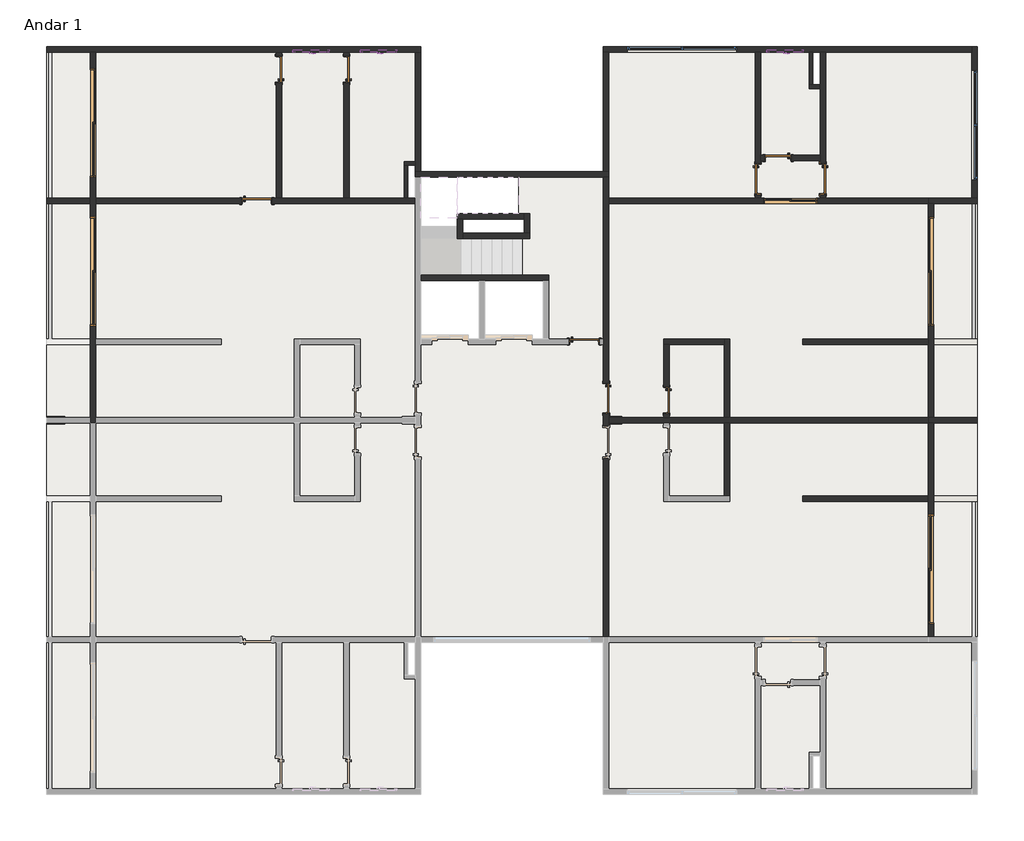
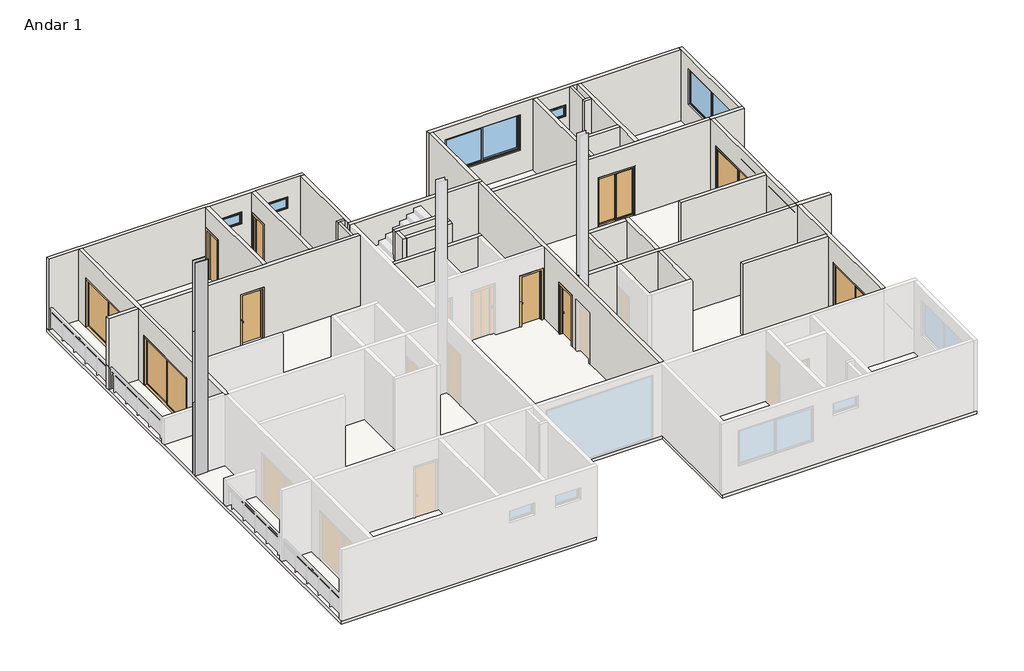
# One storey, part 2 of 3: 38 walls, 14 doors, 5 windows, 1 column, 1 slab.
"""IFC4 building model written with IfcOpenShell, lengths in millimetres."""

from ifc_helpers import new_model, si_unit, frame, origin, place, context, project, spatial, polyline, outline, extrude, faceted_brep, transform, mapped, element, save
from components import door_3_00m_x_2_10m_bc451fc0, door_3_00m_x_2_10m_5baaadc1, door_interior_single_flush_panel_wood_70m_89b55d44, door_interior_single_flush_panel_wood_70m_eb1ec4d9, door_interior_single_flush_panel_wood_80m_pcf_cb5077a7, door_interior_single_flush_panel_wood_80m_pcf_192ded05, p2_1_50m_x_2_10m_2a77f288, window_d9182d47, j1_3_00m_x_1_50m_afc201fb

model = new_model("IFC4")

# Units and contexts
model_context = context("Model", 3, world=origin())
ifc_project = project(units=[si_unit("LENGTHUNIT", "METRE", prefix="MILLI")], contexts=[model_context])

# Site, building, storey
site = spatial("IfcSite", under=ifc_project)
building = spatial("IfcBuilding", under=site)
storey = spatial("IfcBuildingStorey", under=building, Name="Andar 1", Elevation=3150.0)

# Column
placement = place(None, origin())
element("IfcColumn", 1, ObjectType="M_Coluna retangular : 50cm x 20cm", at=placement, inside=storey, context=model_context, shape_type="SweptSolid", body=[
    extrude(outline(polyline([(12600.0, 12150.0), (12600.0, 3150.0), (12575.0, 3150.0), (12575.0, 6150.0), (12575.0, 9150.0), (12575.0, 12150.0), (12600.0, 12150.0)])), frame((6000.0, 0.0, 0.0), z_axis=(1.0, 0.0, 0.0), x_axis=(0.0, 1.0, 0.0)), (0.0, 0.0, 1.0), 500.0),
    extrude(outline(polyline([(12400.0, 3150.0), (12400.0, 12150.0), (12425.0, 12150.0), (12425.0, 9150.0), (12425.0, 6150.0), (12425.0, 3150.0), (12400.0, 3150.0)])), frame((6000.0, 0.0, 0.0), z_axis=(1.0, 0.0, 0.0), x_axis=(0.0, 1.0, 0.0)), (0.0, 0.0, 1.0), 500.0),
])

# Doors
door_3_00m_x_2_10m_shape = door_3_00m_x_2_10m_bc451fc0(model_context)
element("IfcDoor", 2, ObjectType="Porta de Correr - 2 Folhas - ComPainel 1 : 3.00m x 2.10m", at=placement, inside=storey, context=model_context, shape_type="MappedRepresentation", body=[
    mapped(door_3_00m_x_2_10m_shape, transform((7275.0, 16604.2060771, 3150.0), x_axis=(0.0, -1.0, 0.0), y_axis=(1.0, 0.0, 0.0), z_axis=(0.0, 0.0, 1.0))),
])
element("IfcDoor", 3, ObjectType="Porta de Correr - 2 Folhas - ComPainel 1 : 3.00m x 2.10m", at=placement, inside=storey, context=model_context, shape_type="MappedRepresentation", body=[
    mapped(door_3_00m_x_2_10m_shape, transform((7275.0, 20664.2060771, 3150.0), x_axis=(0.0, -1.0, 0.0), y_axis=(1.0, 0.0, 0.0), z_axis=(0.0, 0.0, 1.0))),
])
element("IfcDoor", 4, ObjectType="Porta de Correr - 2 Folhas - ComPainel 1 : 3.00m x 2.10m", at=placement, inside=storey, context=model_context, shape_type="MappedRepresentation", body=[
    mapped(door_3_00m_x_2_10m_shape, transform((30175.0, 8395.7939229, 3150.0), x_axis=(0.0, 1.0, 0.0), y_axis=(-1.0, 0.0, 0.0), z_axis=(0.0, 0.0, 1.0))),
])
door_3_00m_x_2_10m_2_shape = door_3_00m_x_2_10m_5baaadc1(model_context)
element("IfcDoor", 5, ObjectType="Porta de Correr - 2 Folhas - ComPainel 1 : 3.00m x 2.10m", at=placement, inside=storey, context=model_context, shape_type="MappedRepresentation", body=[
    mapped(door_3_00m_x_2_10m_2_shape, transform((30175.0, 16604.2060771, 3150.0), x_axis=(0.0, -1.0, 0.0), y_axis=(1.0, 0.0, 0.0), z_axis=(0.0, 0.0, 1.0))),
])
door_interior_single_flush_panel_wood_70m_shape = door_interior_single_flush_panel_wood_70m_89b55d44(model_context)
element("IfcDoor", 6, ObjectType="Door-Interior-Single-Flush_Panel-Wood : .70m", at=placement, inside=storey, context=model_context, shape_type="MappedRepresentation", body=[
    mapped(door_interior_single_flush_panel_wood_70m_shape, transform((22953.175, 13050.4, 3150.0), x_axis=(0.0, -1.0, 0.0), y_axis=(1.0, 0.0, 0.0), z_axis=(0.0, 0.0, 1.0))),
])
door_interior_single_flush_panel_wood_70m_2_shape = door_interior_single_flush_panel_wood_70m_eb1ec4d9(model_context)
element("IfcDoor", 7, ObjectType="Door-Interior-Single-Flush_Panel-Wood : .70m", at=placement, inside=storey, context=model_context, shape_type="MappedRepresentation", body=[
    mapped(door_interior_single_flush_panel_wood_70m_2_shape, transform((14203.175, 22099.6, 3150.0), x_axis=(0.0, 1.0, 0.0), y_axis=(-1.0, 0.0, 0.0), z_axis=(0.0, 0.0, 1.0))),
])
element("IfcDoor", 8, ObjectType="Door-Interior-Single-Flush_Panel-Wood : .70m", at=placement, inside=storey, context=model_context, shape_type="MappedRepresentation", body=[
    mapped(door_interior_single_flush_panel_wood_70m_2_shape, transform((26000.4, 19678.575, 3150.0), x_axis=(-1.0, 0.0, 0.0), y_axis=(0.0, -1.0, 0.0), z_axis=(0.0, 0.0, 1.0))),
])
element("IfcDoor", 9, ObjectType="Door-Interior-Single-Flush_Panel-Wood : .70m", at=placement, inside=storey, context=model_context, shape_type="MappedRepresentation", body=[
    mapped(door_interior_single_flush_panel_wood_70m_2_shape, transform((12353.175, 22099.6, 3150.0), x_axis=(0.0, 1.0, 0.0), y_axis=(-1.0, 0.0, 0.0), z_axis=(0.0, 0.0, 1.0))),
])
door_interior_single_flush_panel_wood_80m_pcf_shape = door_interior_single_flush_panel_wood_80m_pcf_cb5077a7(model_context)
element("IfcDoor", 10, ObjectType="Door-Interior-Single-Flush_Panel-Wood : .80m", at=placement, inside=storey, context=model_context, shape_type="MappedRepresentation", body=[
    mapped(door_interior_single_flush_panel_wood_80m_pcf_shape, transform((25446.825, 19100.4, 3150.0), x_axis=(0.0, -1.0, 0.0), y_axis=(1.0, 0.0, 0.0), z_axis=(0.0, 0.0, 1.0))),
])
door_interior_single_flush_panel_wood_80m_pcf_2_shape = door_interior_single_flush_panel_wood_80m_pcf_192ded05(model_context)
element("IfcDoor", 11, ObjectType="Door-Interior-Single-Flush_Panel-Wood : .80m", at=placement, inside=storey, context=model_context, shape_type="MappedRepresentation", body=[
    mapped(door_interior_single_flush_panel_wood_80m_pcf_2_shape, transform((11749.6, 18503.175, 3150.0), x_axis=(1.0, 0.0, 0.0), y_axis=(0.0, 1.0, 0.0), z_axis=(0.0, 0.0, 1.0))),
])
element("IfcDoor", 12, ObjectType="Door-Interior-Single-Flush_Panel-Wood : .80m", at=placement, inside=storey, context=model_context, shape_type="MappedRepresentation", body=[
    mapped(door_interior_single_flush_panel_wood_80m_pcf_2_shape, transform((27228.175, 19100.4, 3150.0), x_axis=(0.0, -1.0, 0.0), y_axis=(1.0, 0.0, 0.0), z_axis=(0.0, 0.0, 1.0))),
])
element("IfcDoor", 13, ObjectType="Door-Interior-Single-Flush_Panel-Wood : .80m - PCF", at=placement, inside=storey, context=model_context, shape_type="MappedRepresentation", body=[
    mapped(door_interior_single_flush_panel_wood_80m_pcf_2_shape, transform((21303.175, 13100.4, 3150.0), x_axis=(0.0, -1.0, 0.0), y_axis=(1.0, 0.0, 0.0), z_axis=(0.0, 0.0, 1.0))),
])
element("IfcDoor", 14, ObjectType="Door-Interior-Single-Flush_Panel-Wood : .80m - PCF", at=placement, inside=storey, context=model_context, shape_type="MappedRepresentation", body=[
    mapped(door_interior_single_flush_panel_wood_80m_pcf_2_shape, transform((20699.6, 14653.175, 3150.0), x_axis=(1.0, 0.0, 0.0), y_axis=(0.0, 1.0, 0.0), z_axis=(0.0, 0.0, 1.0))),
])
p2_1_50m_x_2_10m_shape = p2_1_50m_x_2_10m_2a77f288(model_context)
element("IfcDoor", 15, ObjectType="Porta de Correr - 2 Folhas - ComPainel 1 : P2 - 1.50m x 2.10m", at=placement, inside=storey, context=model_context, shape_type="MappedRepresentation", body=[
    mapped(p2_1_50m_x_2_10m_shape, transform((26308.2939229, 18500.0, 3150.0), x_axis=(1.0, 0.0, 0.0), y_axis=(0.0, 1.0, 0.0), z_axis=(0.0, 0.0, 1.0))),
])

# Slab
element("IfcSlab", 16, ObjectType="_Laje 15cm", at=placement, inside=storey, context=model_context, shape_type="SweptSolid", body=[
    extrude(outline(polyline([(16205.0, 22705.0), (16205.0, 14725.0), (19725.0, 14725.0), (19725.0, 16475.0), (19010.0, 16475.0), (19010.0, 17474.2019304), (19205.0, 17473.8019304), (19205.0, 18149.6), (18905.0, 18149.6), (18905.0, 19279.2009656), (21245.0, 19279.2009656), (21245.0, 22705.0), (31430.0, 22705.0), (31430.0, 18425.0), (31450.0, 18425.0), (31450.0, 6575.0), (31430.0, 6575.0), (31430.0, 2295.0), (21245.0, 2295.0), (21245.0, 6445.0), (16205.0, 6445.0), (16205.0, 2295.0), (6000.0, 2295.0), (6000.0, 22705.0), (16205.0, 22705.0)]), holes=[polyline([(16075.0, 6425.0), (15775.0, 6425.0), (15775.0, 5425.0), (16075.0, 5425.0), (16075.0, 6425.0)]), polyline([(27300.0, 3425.0), (26850.0, 3425.0), (26850.0, 2425.0), (27300.0, 2425.0), (27300.0, 3425.0)]), polyline([(27300.0, 22575.0), (26850.0, 22575.0), (26850.0, 21575.0), (27300.0, 21575.0), (27300.0, 22575.0)]), polyline([(16075.0, 19575.0), (15775.0, 19575.0), (15775.0, 18575.0), (16075.0, 18575.0), (16075.0, 19575.0)])]), frame((0.0, 0.0, 3000.0), z_axis=(0.0, 0.0, 1.0), x_axis=(1.0, 0.0, 0.0)), (0.0, 0.0, 1.0), 150.0),
])

# Walls
element("IfcWall", 17, ObjectType="M_Parede Normal - 10cm - Interna", at=placement, inside=storey, context=model_context, shape_type="Brep", body=[
    faceted_brep([(27150.0, 21675.0, 3150.0), (26950.0, 21675.0, 3150.0), (26850.0, 21675.0, 3150.0), (26850.0, 21675.0, 6150.0), (26950.0, 21675.0, 6150.0), (27150.0, 21675.0, 6150.0), (27150.0, 21575.0, 3150.0), (27150.0, 21575.0, 6150.0), (26850.0, 21575.0, 6150.0), (26850.0, 21575.0, 3150.0)], [[[0, 1, 2, 3, 4, 5]], [[6, 7, 8, 9]], [[2, 1, 0, 6, 9]], [[5, 4, 3, 8, 7]], [[0, 5, 7, 6]], [[3, 2, 9, 8]]]),
])
element("IfcWall", 18, ObjectType="M_Parede Normal - 10cm - Interna", at=placement, inside=storey, context=model_context, shape_type="SweptSolid", body=[
    extrude(outline(polyline([(26950.0, 22575.0), (26950.0, 21675.0), (26850.0, 21675.0), (26850.0, 22575.0), (26950.0, 22575.0)])), frame((0.0, 0.0, 3150.0), z_axis=(0.0, 0.0, 1.0), x_axis=(1.0, 0.0, 0.0)), (0.0, 0.0, 1.0), 3000.0),
])
element("IfcWall", 19, ObjectType="M_Parede Normal - 10cm - Interna", at=placement, inside=storey, context=model_context, shape_type="Brep", body=[
    faceted_brep([(16075.0, 19575.0, 3150.0), (15775.0, 19575.0, 3150.0), (15775.0, 19575.0, 6150.0), (16075.0, 19575.0, 6150.0), (16075.0, 19475.0, 3150.0), (16075.0, 19475.0, 6150.0), (15875.0, 19475.0, 6150.0), (15775.0, 19475.0, 6150.0), (15775.0, 19475.0, 3150.0), (15875.0, 19475.0, 3150.0)], [[[0, 1, 2, 3]], [[4, 5, 6, 7, 8, 9]], [[1, 0, 4, 9, 8]], [[3, 2, 7, 6, 5]], [[0, 3, 5, 4]], [[2, 1, 8, 7]]]),
])
element("IfcWall", 20, ObjectType="M_Parede Normal - 10cm - Interna", at=placement, inside=storey, context=model_context, shape_type="SweptSolid", body=[
    extrude(outline(polyline([(15775.0, 18575.0), (15775.0, 19475.0), (15875.0, 19475.0), (15875.0, 18575.0), (15775.0, 18575.0)])), frame((0.0, 0.0, 3150.0), z_axis=(0.0, 0.0, 1.0), x_axis=(1.0, 0.0, 0.0)), (0.0, 0.0, 1.0), 3000.0),
])
element("IfcWall", 21, ObjectType="M_Parede Normal - 15cm - Externa", at=placement, inside=storey, context=model_context, shape_type="Brep", body=[
    faceted_brep([(16075.0, 22575.0, 3150.0), (16075.0, 19575.0, 3150.0), (16075.0, 19475.0, 3150.0), (16075.0, 19299.2009656, 3150.0), (16075.0, 19299.2009656, 6150.0), (16075.0, 19475.0, 6150.0), (16075.0, 19575.0, 6150.0), (16075.0, 22575.0, 6150.0), (16225.0, 22575.0, 3150.0), (16225.0, 22575.0, 6150.0), (16225.0, 19299.2009656, 6150.0), (16225.0, 19299.2009656, 3150.0)], [[[0, 1, 2, 3, 4, 5, 6, 7]], [[8, 9, 10, 11]], [[3, 2, 1, 0, 8, 11]], [[7, 6, 5, 4, 10, 9]], [[0, 7, 9, 8]], [[4, 3, 11, 10]]]),
])
element("IfcWall", 22, ObjectType="M_Parede Normal - 15cm - Externa", at=placement, inside=storey, context=model_context, shape_type="Brep", body=[
    faceted_brep([(6000.0, 22575.0, 3150.0), (6150.0, 22575.0, 3150.0), (7200.0, 22575.0, 3150.0), (7350.0, 22575.0, 3150.0), (12275.0, 22575.0, 3150.0), (12425.0, 22575.0, 3150.0), (14125.0, 22575.0, 3150.0), (14275.0, 22575.0, 3150.0), (16075.0, 22575.0, 3150.0), (16225.0, 22575.0, 3150.0), (16225.0, 22575.0, 6150.0), (16075.0, 22575.0, 6150.0), (14275.0, 22575.0, 6150.0), (14125.0, 22575.0, 6150.0), (12425.0, 22575.0, 6150.0), (12275.0, 22575.0, 6150.0), (7350.0, 22575.0, 6150.0), (7200.0, 22575.0, 6150.0), (6000.0, 22575.0, 6150.0), (15575.0, 22575.0, 5450.0), (15575.0, 22575.0, 4950.0), (14575.0, 22575.0, 4950.0), (14575.0, 22575.0, 5450.0), (13725.0, 22575.0, 5450.0), (13725.0, 22575.0, 4950.0), (12725.0, 22575.0, 4950.0), (12725.0, 22575.0, 5450.0), (16225.0, 22725.0, 3150.0), (6000.0, 22725.0, 3150.0), (6000.0, 22725.0, 6150.0), (16225.0, 22725.0, 6150.0), (15575.0, 22725.0, 4950.0), (15575.0, 22725.0, 5450.0), (14575.0, 22725.0, 5450.0), (14575.0, 22725.0, 4950.0), (13725.0, 22725.0, 4950.0), (13725.0, 22725.0, 5450.0), (12725.0, 22725.0, 5450.0), (12725.0, 22725.0, 4950.0)], [[[0, 1, 2, 3, 4, 5, 6, 7, 8, 9, 10, 11, 12, 13, 14, 15, 16, 17, 18], [19, 20, 21, 22], [23, 24, 25, 26]], [[27, 28, 29, 30], [31, 32, 33, 34], [35, 36, 37, 38]], [[9, 8, 7, 6, 5, 4, 3, 2, 1, 0, 28, 27]], [[18, 17, 16, 15, 14, 13, 12, 11, 10, 30, 29]], [[0, 18, 29, 28]], [[31, 20, 19, 32]], [[33, 22, 21, 34]], [[20, 31, 34, 21]], [[22, 33, 32, 19]], [[36, 35, 24, 23]], [[37, 36, 23, 26]], [[38, 37, 26, 25]], [[35, 38, 25, 24]], [[10, 9, 27, 30]]]),
])
element("IfcWall", 23, ObjectType="M_Parede Normal - 15cm - Externa", at=placement, inside=storey, context=model_context, shape_type="Brep", body=[
    faceted_brep([(31450.0, 12575.0, 3150.0), (31300.0, 12575.0, 3150.0), (30950.0, 12575.0, 3150.0), (30250.0, 12575.0, 3150.0), (30100.0, 12575.0, 3150.0), (30100.0, 12575.0, 6150.0), (30250.0, 12575.0, 6150.0), (31450.0, 12575.0, 6150.0), (31450.0, 12425.0, 3150.0), (31450.0, 12425.0, 6150.0), (30250.0, 12425.0, 6150.0), (30100.0, 12425.0, 6150.0), (30100.0, 12425.0, 3150.0), (30250.0, 12425.0, 3150.0), (30950.0, 12425.0, 3150.0), (31300.0, 12425.0, 3150.0)], [[[0, 1, 2, 3, 4, 5, 6, 7]], [[8, 9, 10, 11, 12, 13, 14, 15]], [[4, 3, 2, 1, 0, 8, 15, 14, 13, 12]], [[7, 6, 5, 11, 10, 9]], [[0, 7, 9, 8]], [[5, 4, 12, 11]]]),
])
element("IfcWall", 24, ObjectType="M_Parede Normal - 15cm - Externa", at=placement, inside=storey, context=model_context, shape_type="Brep", body=[
    faceted_brep([(7350.0, 22575.0, 6150.0), (7350.0, 18575.0, 6150.0), (7350.0, 18425.0, 6150.0), (7350.0, 12575.0, 6150.0), (7350.0, 12425.0, 6150.0), (7350.0, 12425.0, 3150.0), (7350.0, 12575.0, 3150.0), (7350.0, 15075.0, 3150.0), (7350.0, 15075.0, 5250.0), (7350.0, 18075.0, 5250.0), (7350.0, 18075.0, 3150.0), (7350.0, 18425.0, 3150.0), (7350.0, 18575.0, 3150.0), (7350.0, 19135.0, 3150.0), (7350.0, 19135.0, 5250.0), (7350.0, 22135.0, 5250.0), (7350.0, 22135.0, 3150.0), (7350.0, 22575.0, 3150.0), (7200.0, 12425.0, 6150.0), (7200.0, 12575.0, 6150.0), (7200.0, 18425.0, 6150.0), (7200.0, 18575.0, 6150.0), (7200.0, 22575.0, 6150.0), (7200.0, 22575.0, 3150.0), (7200.0, 22135.0, 3150.0), (7200.0, 22135.0, 5250.0), (7200.0, 19135.0, 5250.0), (7200.0, 19135.0, 3150.0), (7200.0, 18575.0, 3150.0), (7200.0, 18425.0, 3150.0), (7200.0, 18075.0, 3150.0), (7200.0, 18075.0, 5250.0), (7200.0, 15075.0, 5250.0), (7200.0, 15075.0, 3150.0), (7200.0, 12575.0, 3150.0), (7200.0, 12425.0, 3150.0)], [[[0, 1, 2, 3, 4, 5, 6, 7, 8, 9, 10, 11, 12, 13, 14, 15, 16, 17]], [[18, 19, 20, 21, 22, 23, 24, 25, 26, 27, 28, 29, 30, 31, 32, 33, 34, 35]], [[23, 17, 16, 24]], [[10, 30, 29, 28, 27, 13, 12, 11]], [[7, 6, 5, 35, 34, 33]], [[4, 3, 2, 1, 0, 22, 21, 20, 19, 18]], [[0, 17, 23, 22]], [[32, 8, 7, 33]], [[8, 32, 31, 9]], [[9, 31, 30, 10]], [[26, 14, 13, 27]], [[14, 26, 25, 15]], [[15, 25, 24, 16]], [[5, 4, 18, 35]]]),
])
element("IfcWall", 25, ObjectType="M_Parede Normal - 15cm - Externa", at=placement, inside=storey, context=model_context, shape_type="SweptSolid", body=[
    extrude(outline(polyline([(21225.0, 19299.2009656), (21225.0, 22575.0), (21375.0, 22575.0), (21375.0, 19299.2009656), (21225.0, 19299.2009656)])), frame((0.0, 0.0, 3150.0), z_axis=(0.0, 0.0, 1.0), x_axis=(1.0, 0.0, 0.0)), (0.0, 0.0, 1.0), 3000.0),
])
element("IfcWall", 26, ObjectType="M_Parede Normal - 15cm - Externa", at=placement, inside=storey, context=model_context, shape_type="Brep", body=[
    faceted_brep([(30250.0, 18425.0, 6150.0), (30250.0, 12575.0, 6150.0), (30250.0, 12575.0, 3150.0), (30250.0, 15075.0, 3150.0), (30250.0, 15075.0, 5250.0), (30250.0, 18075.0, 5250.0), (30250.0, 18075.0, 3150.0), (30250.0, 18425.0, 3150.0), (30100.0, 12575.0, 6150.0), (30100.0, 14575.0, 6150.0), (30100.0, 14725.0, 6150.0), (30100.0, 18425.0, 6150.0), (30100.0, 18425.0, 3150.0), (30100.0, 18075.0, 3150.0), (30100.0, 18075.0, 5250.0), (30100.0, 15075.0, 5250.0), (30100.0, 15075.0, 3150.0), (30100.0, 14725.0, 3150.0), (30100.0, 14575.0, 3150.0), (30100.0, 12575.0, 3150.0)], [[[0, 1, 2, 3, 4, 5, 6, 7]], [[8, 9, 10, 11, 12, 13, 14, 15, 16, 17, 18, 19]], [[12, 7, 6, 13]], [[2, 19, 18, 17, 16, 3]], [[1, 0, 11, 10, 9, 8]], [[0, 7, 12, 11]], [[15, 4, 3, 16]], [[4, 15, 14, 5]], [[5, 14, 13, 6]], [[2, 1, 8, 19]]]),
])
element("IfcWall", 27, ObjectType="M_Parede Normal - 15cm - Externa", at=placement, inside=storey, context=model_context, shape_type="SweptSolid", body=[
    extrude(outline(polyline([(30250.0, 14725.0), (31450.0, 14725.0), (31450.0, 14575.0), (30250.0, 14575.0), (30250.0, 14725.0)])), frame((0.0, 0.0, 3150.0), z_axis=(0.0, 0.0, 1.0), x_axis=(1.0, 0.0, 0.0)), (0.0, 0.0, 1.0), 1100.0),
])
element("IfcWall", 28, ObjectType="M_Parede Normal - 15cm - Externa", at=placement, inside=storey, context=model_context, shape_type="Brep", body=[
    faceted_brep([(31450.0, 18575.0, 3150.0), (31450.0, 22725.0, 3150.0), (31450.0, 22725.0, 6150.0), (31450.0, 18575.0, 6150.0), (31450.0, 19075.0, 4150.0), (31450.0, 19075.0, 5650.0), (31450.0, 22075.0, 5650.0), (31450.0, 22075.0, 4150.0), (31300.0, 18575.0, 3150.0), (31300.0, 18575.0, 6150.0), (31300.0, 22575.0, 6150.0), (31300.0, 22725.0, 6150.0), (31300.0, 22725.0, 3150.0), (31300.0, 22575.0, 3150.0), (31300.0, 19075.0, 4150.0), (31300.0, 22075.0, 4150.0), (31300.0, 22075.0, 5650.0), (31300.0, 19075.0, 5650.0)], [[[0, 1, 2, 3], [4, 5, 6, 7]], [[8, 9, 10, 11, 12, 13], [14, 15, 16, 17]], [[1, 0, 8, 13, 12]], [[3, 2, 11, 10, 9]], [[0, 3, 9, 8]], [[2, 1, 12, 11]], [[5, 4, 14, 17]], [[6, 5, 17, 16]], [[7, 6, 16, 15]], [[4, 7, 15, 14]]]),
])
element("IfcWall", 29, ObjectType="M_Parede Normal - 15cm - Externa", at=placement, inside=storey, context=model_context, shape_type="SweptSolid", body=[
    extrude(outline(polyline([(6000.0, 18575.0), (7200.0, 18575.0), (7200.0, 18425.0), (6000.0, 18425.0), (6000.0, 18575.0)])), frame((0.0, 0.0, 3150.0), z_axis=(0.0, 0.0, 1.0), x_axis=(1.0, 0.0, 0.0)), (0.0, 0.0, 1.0), 3000.0),
])
element("IfcWall", 30, ObjectType="M_Parede Normal - 15cm - Externa", at=placement, inside=storey, context=model_context, shape_type="Brep", body=[
    faceted_brep([(30100.0, 18425.0, 3150.0), (30250.0, 18425.0, 3150.0), (31450.0, 18425.0, 3150.0), (31450.0, 18425.0, 6150.0), (30250.0, 18425.0, 6150.0), (30100.0, 18425.0, 6150.0), (30100.0, 18575.0, 3150.0), (30100.0, 18575.0, 6150.0), (31300.0, 18575.0, 6150.0), (31450.0, 18575.0, 6150.0), (31450.0, 18575.0, 3150.0), (31300.0, 18575.0, 3150.0)], [[[0, 1, 2, 3, 4, 5]], [[6, 7, 8, 9, 10, 11]], [[2, 1, 0, 6, 11, 10]], [[5, 4, 3, 9, 8, 7]], [[3, 2, 10, 9]], [[0, 5, 7, 6]]]),
])
element("IfcWall", 31, ObjectType="M_Parede Normal - 15cm - Externa", at=placement, inside=storey, context=model_context, shape_type="Brep", body=[
    faceted_brep([(30100.0, 6575.0, 6150.0), (30100.0, 10275.0, 6150.0), (30100.0, 10425.0, 6150.0), (30100.0, 12425.0, 6150.0), (30100.0, 12425.0, 3150.0), (30100.0, 10425.0, 3150.0), (30100.0, 10275.0, 3150.0), (30100.0, 9925.0, 3150.0), (30100.0, 9925.0, 5250.0), (30100.0, 6925.0, 5250.0), (30100.0, 6925.0, 3150.0), (30100.0, 6575.0, 3150.0), (30250.0, 12425.0, 6150.0), (30250.0, 6575.0, 6150.0), (30250.0, 6575.0, 3150.0), (30250.0, 6925.0, 3150.0), (30250.0, 6925.0, 5250.0), (30250.0, 9925.0, 5250.0), (30250.0, 9925.0, 3150.0), (30250.0, 12425.0, 3150.0)], [[[0, 1, 2, 3, 4, 5, 6, 7, 8, 9, 10, 11]], [[12, 13, 14, 15, 16, 17, 18, 19]], [[14, 11, 10, 15]], [[4, 19, 18, 7, 6, 5]], [[3, 2, 1, 0, 13, 12]], [[0, 11, 14, 13]], [[4, 3, 12, 19]], [[17, 8, 7, 18]], [[8, 17, 16, 9]], [[9, 16, 15, 10]]]),
])
element("IfcWall", 32, ObjectType="M_Parede Normal - 15cm - Externa", at=placement, inside=storey, context=model_context, shape_type="SweptSolid", body=[
    extrude(outline(polyline([(30250.0, 10425.0), (31450.0, 10425.0), (31450.0, 10275.0), (30250.0, 10275.0), (30250.0, 10425.0)])), frame((0.0, 0.0, 3150.0), z_axis=(0.0, 0.0, 1.0), x_axis=(1.0, 0.0, 0.0)), (0.0, 0.0, 1.0), 1100.0),
])
element("IfcWall", 33, ObjectType="M_Parede Normal - 15cm - Externa", at=placement, inside=storey, context=model_context, shape_type="Brep", body=[
    faceted_brep([(21225.0, 22575.0, 3150.0), (21375.0, 22575.0, 3150.0), (25375.0, 22575.0, 3150.0), (25525.0, 22575.0, 3150.0), (26850.0, 22575.0, 3150.0), (26950.0, 22575.0, 3150.0), (27150.0, 22575.0, 3150.0), (27300.0, 22575.0, 3150.0), (31300.0, 22575.0, 3150.0), (31300.0, 22575.0, 6150.0), (27300.0, 22575.0, 6150.0), (27150.0, 22575.0, 6150.0), (26950.0, 22575.0, 6150.0), (26850.0, 22575.0, 6150.0), (25525.0, 22575.0, 6150.0), (25375.0, 22575.0, 6150.0), (21375.0, 22575.0, 6150.0), (21225.0, 22575.0, 6150.0), (24875.0, 22575.0, 4150.0), (21875.0, 22575.0, 4150.0), (21875.0, 22575.0, 5650.0), (24875.0, 22575.0, 5650.0), (26687.5, 22575.0, 4950.0), (25687.5, 22575.0, 4950.0), (25687.5, 22575.0, 5450.0), (26687.5, 22575.0, 5450.0), (21225.0, 22725.0, 3150.0), (21225.0, 22725.0, 6150.0), (31300.0, 22725.0, 6150.0), (31300.0, 22725.0, 3150.0), (24875.0, 22725.0, 4150.0), (24875.0, 22725.0, 5650.0), (21875.0, 22725.0, 5650.0), (21875.0, 22725.0, 4150.0), (26687.5, 22725.0, 4950.0), (26687.5, 22725.0, 5450.0), (25687.5, 22725.0, 5450.0), (25687.5, 22725.0, 4950.0)], [[[0, 1, 2, 3, 4, 5, 6, 7, 8, 9, 10, 11, 12, 13, 14, 15, 16, 17], [18, 19, 20, 21], [22, 23, 24, 25]], [[26, 27, 28, 29], [30, 31, 32, 33], [34, 35, 36, 37]], [[8, 7, 6, 5, 4, 3, 2, 1, 0, 26, 29]], [[17, 16, 15, 14, 13, 12, 11, 10, 9, 28, 27]], [[9, 8, 29, 28]], [[30, 33, 19, 18]], [[33, 32, 20, 19]], [[32, 31, 21, 20]], [[31, 30, 18, 21]], [[0, 17, 27, 26]], [[35, 34, 22, 25]], [[36, 35, 25, 24]], [[37, 36, 24, 23]], [[34, 37, 23, 22]]]),
])
element("IfcWall", 34, ObjectType="M_Parede Normal - 15cm - Externa", at=placement, inside=storey, context=model_context, shape_type="Brep", body=[
    faceted_brep([(16075.0, 19149.2009656, 3150.0), (16225.0, 19149.2009656, 3150.0), (21225.0, 19149.2009656, 3150.0), (21375.0, 19149.2009656, 3150.0), (21375.0, 19149.2009656, 6150.0), (21225.0, 19149.2009656, 6150.0), (16225.0, 19149.2009656, 6150.0), (16075.0, 19149.2009656, 6150.0), (16075.0, 19299.2009656, 3150.0), (16075.0, 19299.2009656, 6150.0), (16225.0, 19299.2009656, 6150.0), (21225.0, 19299.2009656, 6150.0), (21375.0, 19299.2009656, 6150.0), (21375.0, 19299.2009656, 3150.0), (21225.0, 19299.2009656, 3150.0), (16225.0, 19299.2009656, 3150.0)], [[[0, 1, 2, 3, 4, 5, 6, 7]], [[8, 9, 10, 11, 12, 13, 14, 15]], [[3, 2, 1, 0, 8, 15, 14, 13]], [[7, 6, 5, 4, 12, 11, 10, 9]], [[0, 7, 9, 8]], [[4, 3, 13, 12]]]),
])
element("IfcWall", 35, ObjectType="M_Parede Normal - 15cm - Interna", at=placement, inside=storey, context=model_context, shape_type="Brep", body=[
    faceted_brep([(7350.0, 18575.0, 6150.0), (12275.0, 18575.0, 6150.0), (12425.0, 18575.0, 6150.0), (14125.0, 18575.0, 6150.0), (14275.0, 18575.0, 6150.0), (15775.0, 18575.0, 6150.0), (15875.0, 18575.0, 6150.0), (16075.0, 18575.0, 6150.0), (16075.0, 18575.0, 3150.0), (15875.0, 18575.0, 3150.0), (15775.0, 18575.0, 3150.0), (14275.0, 18575.0, 3150.0), (14125.0, 18575.0, 3150.0), (12425.0, 18575.0, 3150.0), (12275.0, 18575.0, 3150.0), (12175.0, 18575.0, 3150.0), (12175.0, 18575.0, 5275.4), (11324.2, 18575.0, 5275.4), (11324.2, 18575.0, 3150.0), (7350.0, 18575.0, 3150.0), (16075.0, 18425.0, 6150.0), (7350.0, 18425.0, 6150.0), (7350.0, 18425.0, 3150.0), (11324.2, 18425.0, 3150.0), (11324.2, 18425.0, 5275.4), (12175.0, 18425.0, 5275.4), (12175.0, 18425.0, 3150.0), (16075.0, 18425.0, 3150.0)], [[[0, 1, 2, 3, 4, 5, 6, 7, 8, 9, 10, 11, 12, 13, 14, 15, 16, 17, 18, 19]], [[20, 21, 22, 23, 24, 25, 26, 27]], [[8, 27, 26, 15, 14, 13, 12, 11, 10, 9]], [[22, 19, 18, 23]], [[7, 6, 5, 4, 3, 2, 1, 0, 21, 20]], [[8, 7, 20, 27]], [[25, 16, 15, 26]], [[16, 25, 24, 17]], [[17, 24, 23, 18]], [[0, 19, 22, 21]]]),
])
element("IfcWall", 36, ObjectType="M_Parede Normal - 15cm - Interna", at=placement, inside=storey, context=model_context, shape_type="SweptSolid", body=[
    extrude(outline(polyline([(18575.0, 6150.0), (22575.0, 6150.0), (22575.0, 3150.0), (22475.0, 3150.0), (22475.0, 5275.4), (21724.2, 5275.4), (21724.2, 3150.0), (18575.0, 3150.0), (18575.0, 6150.0)])), frame((14125.0, 0.0, 0.0), z_axis=(1.0, 0.0, 0.0), x_axis=(0.0, 1.0, 0.0)), (0.0, 0.0, 1.0), 150.0),
])
element("IfcWall", 37, ObjectType="M_Parede Normal - 15cm - Interna", at=placement, inside=storey, context=model_context, shape_type="Brep", body=[
    faceted_brep([(30100.0, 18425.0, 6150.0), (21375.0, 18425.0, 6150.0), (21375.0, 18425.0, 3150.0), (25587.5, 18425.0, 3150.0), (25587.5, 18425.0, 5250.0), (27087.5, 18425.0, 5250.0), (27087.5, 18425.0, 3150.0), (30100.0, 18425.0, 3150.0), (21375.0, 18575.0, 6150.0), (25375.0, 18575.0, 6150.0), (25525.0, 18575.0, 6150.0), (27150.0, 18575.0, 6150.0), (27300.0, 18575.0, 6150.0), (30100.0, 18575.0, 6150.0), (30100.0, 18575.0, 3150.0), (27300.0, 18575.0, 3150.0), (27150.0, 18575.0, 3150.0), (27087.5, 18575.0, 3150.0), (27087.5, 18575.0, 5250.0), (25587.5, 18575.0, 5250.0), (25587.5, 18575.0, 3150.0), (25525.0, 18575.0, 3150.0), (25375.0, 18575.0, 3150.0), (21375.0, 18575.0, 3150.0)], [[[0, 1, 2, 3, 4, 5, 6, 7]], [[8, 9, 10, 11, 12, 13, 14, 15, 16, 17, 18, 19, 20, 21, 22, 23]], [[2, 23, 22, 21, 20, 3]], [[14, 7, 6, 17, 16, 15]], [[1, 0, 13, 12, 11, 10, 9, 8]], [[2, 1, 8, 23]], [[0, 7, 14, 13]], [[5, 18, 17, 6]], [[18, 5, 4, 19]], [[19, 4, 3, 20]]]),
])
element("IfcWall", 38, ObjectType="M_Parede Normal - 15cm - Interna", at=placement, inside=storey, context=model_context, shape_type="SweptSolid", body=[
    extrude(outline(polyline([(12575.0, 6150.0), (14575.0, 6150.0), (14575.0, 3150.0), (13425.8, 3150.0), (13425.8, 5275.4), (12675.0, 5275.4), (12675.0, 3150.0), (12575.0, 3150.0), (12575.0, 6150.0)])), frame((22875.0, 0.0, 0.0), z_axis=(1.0, 0.0, 0.0), x_axis=(0.0, 1.0, 0.0)), (0.0, 0.0, 1.0), 150.0),
])
element("IfcWall", 39, ObjectType="M_Parede Normal - 15cm - Interna", at=placement, inside=storey, context=model_context, shape_type="Brep", body=[
    faceted_brep([(22875.0, 14575.0, 3150.0), (23025.0, 14575.0, 3150.0), (24525.0, 14575.0, 3150.0), (24525.0, 14575.0, 6150.0), (23025.0, 14575.0, 6150.0), (22875.0, 14575.0, 6150.0), (22875.0, 14725.0, 3150.0), (22875.0, 14725.0, 6150.0), (24525.0, 14725.0, 6150.0), (24525.0, 14725.0, 3150.0)], [[[0, 1, 2, 3, 4, 5]], [[6, 7, 8, 9]], [[2, 1, 0, 6, 9]], [[5, 4, 3, 8, 7]], [[0, 5, 7, 6]], [[3, 2, 9, 8]]]),
])
element("IfcWall", 40, ObjectType="M_Parede Normal - 15cm - Interna", at=placement, inside=storey, context=model_context, shape_type="Brep", body=[
    faceted_brep([(24525.0, 14725.0, 3150.0), (24525.0, 14575.0, 3150.0), (24525.0, 12575.0, 3150.0), (24525.0, 12575.0, 6150.0), (24525.0, 14575.0, 6150.0), (24525.0, 14725.0, 6150.0), (24675.0, 14725.0, 3150.0), (24675.0, 14725.0, 6150.0), (24675.0, 12575.0, 6150.0), (24675.0, 12575.0, 3150.0)], [[[0, 1, 2, 3, 4, 5]], [[6, 7, 8, 9]], [[2, 1, 0, 6, 9]], [[5, 4, 3, 8, 7]], [[0, 5, 7, 6]], [[3, 2, 9, 8]]]),
])
element("IfcWall", 41, ObjectType="M_Parede Normal - 15cm - Interna", at=placement, inside=storey, context=model_context, shape_type="Brep", body=[
    faceted_brep([(27300.0, 22575.0, 6150.0), (27300.0, 18575.0, 6150.0), (27300.0, 18575.0, 3150.0), (27300.0, 18675.0, 3150.0), (27300.0, 18675.0, 5275.4), (27300.0, 19525.8, 5275.4), (27300.0, 19525.8, 3150.0), (27300.0, 22575.0, 3150.0), (27150.0, 18575.0, 6150.0), (27150.0, 19600.4, 6150.0), (27150.0, 19750.4, 6150.0), (27150.0, 21575.0, 6150.0), (27150.0, 21675.0, 6150.0), (27150.0, 22575.0, 6150.0), (27150.0, 22575.0, 3150.0), (27150.0, 21675.0, 3150.0), (27150.0, 21575.0, 3150.0), (27150.0, 19750.4, 3150.0), (27150.0, 19600.4, 3150.0), (27150.0, 19525.8, 3150.0), (27150.0, 19525.8, 5275.4), (27150.0, 18675.0, 5275.4), (27150.0, 18675.0, 3150.0), (27150.0, 18575.0, 3150.0)], [[[0, 1, 2, 3, 4, 5, 6, 7]], [[8, 9, 10, 11, 12, 13, 14, 15, 16, 17, 18, 19, 20, 21, 22, 23]], [[2, 23, 22, 3]], [[14, 7, 6, 19, 18, 17, 16, 15]], [[1, 0, 13, 12, 11, 10, 9, 8]], [[2, 1, 8, 23]], [[0, 7, 14, 13]], [[21, 4, 3, 22]], [[4, 21, 20, 5]], [[5, 20, 19, 6]]]),
])
element("IfcWall", 42, ObjectType="M_Parede Normal - 15cm - Interna", at=placement, inside=storey, context=model_context, shape_type="Brep", body=[
    faceted_brep([(25525.0, 22575.0, 6150.0), (25525.0, 19750.4, 6150.0), (25525.0, 19600.4, 6150.0), (25525.0, 18575.0, 6150.0), (25525.0, 18575.0, 3150.0), (25525.0, 18675.0, 3150.0), (25525.0, 18675.0, 5275.4), (25525.0, 19525.8, 5275.4), (25525.0, 19525.8, 3150.0), (25525.0, 19600.4, 3150.0), (25525.0, 19750.4, 3150.0), (25525.0, 22575.0, 3150.0), (25375.0, 18575.0, 6150.0), (25375.0, 22575.0, 6150.0), (25375.0, 22575.0, 3150.0), (25375.0, 19525.8, 3150.0), (25375.0, 19525.8, 5275.4), (25375.0, 18675.0, 5275.4), (25375.0, 18675.0, 3150.0), (25375.0, 18575.0, 3150.0)], [[[0, 1, 2, 3, 4, 5, 6, 7, 8, 9, 10, 11]], [[12, 13, 14, 15, 16, 17, 18, 19]], [[4, 19, 18, 5]], [[14, 11, 10, 9, 8, 15]], [[3, 2, 1, 0, 13, 12]], [[4, 3, 12, 19]], [[0, 11, 14, 13]], [[17, 6, 5, 18]], [[6, 17, 16, 7]], [[7, 16, 15, 8]]]),
])
element("IfcWall", 43, ObjectType="M_Parede Normal - 15cm - Interna", at=placement, inside=storey, context=model_context, shape_type="SweptSolid", body=[
    extrude(outline(polyline([(6150.0, 27150.0), (6150.0, 25525.0), (3150.0, 25525.0), (3150.0, 25625.0), (5275.4, 25625.0), (5275.4, 26375.8), (3150.0, 26375.8), (3150.0, 27150.0), (6150.0, 27150.0)])), frame((0.0, 19600.4, 0.0), z_axis=(0.0, 1.0, 0.0), x_axis=(0.0, 0.0, 1.0)), (0.0, 0.0, 1.0), 150.0),
])
element("IfcWall", 44, ObjectType="M_Parede Normal - 15cm - Interna", at=placement, inside=storey, context=model_context, shape_type="Brep", body=[
    faceted_brep([(17225.4, 17998.8009656, 3150.0), (17375.4, 17998.8009656, 3150.0), (19055.0, 17998.8009656, 3150.0), (19055.0, 17998.8009656, 6150.0), (17375.4, 17998.8009656, 6150.0), (17225.4, 17998.8009656, 6150.0), (17225.4, 18148.8009656, 3150.0), (17225.4, 18148.8009656, 6150.0), (19055.0, 18148.8009656, 6150.0), (19055.0, 18148.8009656, 3150.0)], [[[0, 1, 2, 3, 4, 5]], [[6, 7, 8, 9]], [[2, 1, 0, 6, 9]], [[5, 4, 3, 8, 7]], [[0, 5, 7, 6]], [[3, 2, 9, 8]]]),
])
element("IfcWall", 45, ObjectType="M_Parede Normal - 15cm - Interna", at=placement, inside=storey, context=model_context, shape_type="Brep", body=[
    faceted_brep([(17375.4, 17474.2009656, 3150.0), (17375.4, 17624.2009656, 3150.0), (17375.4, 17998.8009656, 3150.0), (17375.4, 17998.8009656, 6150.0), (17375.4, 17624.2009656, 6150.0), (17375.4, 17474.2009656, 6150.0), (17225.4, 17474.2009656, 3150.0), (17225.4, 17474.2009656, 6150.0), (17225.4, 17998.8009656, 6150.0), (17225.4, 17998.8009656, 3150.0)], [[[0, 1, 2, 3, 4, 5]], [[6, 7, 8, 9]], [[2, 1, 0, 6, 9]], [[5, 4, 3, 8, 7]], [[0, 5, 7, 6]], [[3, 2, 9, 8]]]),
])
element("IfcWall", 46, ObjectType="M_Parede Normal - 15cm - Interna", at=placement, inside=storey, context=model_context, shape_type="Brep", body=[
    faceted_brep([(19205.0, 17624.2009656, 3150.0), (19055.0, 17624.2009656, 3150.0), (17375.4, 17624.2009656, 3150.0), (17375.4, 17624.2009656, 6150.0), (19055.0, 17624.2009656, 6150.0), (19205.0, 17624.2009656, 6150.0), (19205.0, 17474.2009656, 3150.0), (19205.0, 17474.2009656, 6150.0), (17375.4, 17474.2009656, 6150.0), (17375.4, 17474.2009656, 3150.0)], [[[0, 1, 2, 3, 4, 5]], [[6, 7, 8, 9]], [[2, 1, 0, 6, 9]], [[5, 4, 3, 8, 7]], [[0, 5, 7, 6]], [[3, 2, 9, 8]]]),
])
element("IfcWall", 47, ObjectType="M_Parede Normal - 15cm - Interna", at=placement, inside=storey, context=model_context, shape_type="Brep", body=[
    faceted_brep([(19055.0, 18148.8009656, 3150.0), (19055.0, 17998.8009656, 3150.0), (19055.0, 17624.2009656, 3150.0), (19055.0, 17624.2009656, 6150.0), (19055.0, 17998.8009656, 6150.0), (19055.0, 18148.8009656, 6150.0), (19205.0, 18148.8009656, 3150.0), (19205.0, 18148.8009656, 6150.0), (19205.0, 17624.2009656, 6150.0), (19205.0, 17624.2009656, 3150.0)], [[[0, 1, 2, 3, 4, 5]], [[6, 7, 8, 9]], [[2, 1, 0, 6, 9]], [[5, 4, 3, 8, 7]], [[0, 5, 7, 6]], [[3, 2, 9, 8]]]),
])
element("IfcWall", 48, ObjectType="M_Parede Normal - 15cm - Interna", at=placement, inside=storey, context=model_context, shape_type="Brep", body=[
    faceted_brep([(16225.0, 16325.0, 3150.0), (17825.0, 16325.0, 3150.0), (17975.0, 16325.0, 3150.0), (19575.0, 16325.0, 3150.0), (19725.0, 16325.0, 3150.0), (19725.0, 16325.0, 6150.0), (19575.0, 16325.0, 6150.0), (17975.0, 16325.0, 6150.0), (17825.0, 16325.0, 6150.0), (16225.0, 16325.0, 6150.0), (16225.0, 16475.0, 3150.0), (16225.0, 16475.0, 6150.0), (19725.0, 16475.0, 6150.0), (19725.0, 16475.0, 3150.0)], [[[0, 1, 2, 3, 4, 5, 6, 7, 8, 9]], [[10, 11, 12, 13]], [[4, 3, 2, 1, 0, 10, 13]], [[9, 8, 7, 6, 5, 12, 11]], [[5, 4, 13, 12]], [[0, 9, 11, 10]]]),
])
element("IfcWall", 49, ObjectType="M_Parede Normal - 15cm - Interna", at=placement, inside=storey, context=model_context, shape_type="SweptSolid", body=[
    extrude(outline(polyline([(26675.0, 14725.0), (30100.0, 14725.0), (30100.0, 14575.0), (26675.0, 14575.0), (26675.0, 14725.0)])), frame((0.0, 0.0, 3150.0), z_axis=(0.0, 0.0, 1.0), x_axis=(1.0, 0.0, 0.0)), (0.0, 0.0, 1.0), 3000.0),
])
element("IfcWall", 50, ObjectType="M_Parede Normal - 15cm - Interna", at=placement, inside=storey, context=model_context, shape_type="SweptSolid", body=[
    extrude(outline(polyline([(18575.0, 6150.0), (22575.0, 6150.0), (22575.0, 3150.0), (22475.0, 3150.0), (22475.0, 5275.4), (21724.2, 5275.4), (21724.2, 3150.0), (18575.0, 3150.0), (18575.0, 6150.0)])), frame((12275.0, 0.0, 0.0), z_axis=(1.0, 0.0, 0.0), x_axis=(0.0, 1.0, 0.0)), (0.0, 0.0, 1.0), 150.0),
])
element("IfcWall", 51, ObjectType="M_Parede Normal - 15cm - Interna", at=placement, inside=storey, context=model_context, shape_type="Brep", body=[
    faceted_brep([(21225.0, 6575.0, 6150.0), (21225.0, 14575.0, 6150.0), (21225.0, 14725.0, 6150.0), (21225.0, 19149.2009656, 6150.0), (21225.0, 19149.2009656, 3150.0), (21225.0, 14725.0, 3150.0), (21225.0, 14575.0, 3150.0), (21225.0, 13525.8, 3150.0), (21225.0, 13525.8, 5275.4), (21225.0, 12675.0, 5275.4), (21225.0, 12675.0, 3150.0), (21225.0, 12325.0, 3150.0), (21225.0, 12325.0, 5275.4), (21225.0, 11474.2, 5275.4), (21225.0, 11474.2, 3150.0), (21225.0, 6575.0, 3150.0), (21375.0, 19149.2009656, 6150.0), (21375.0, 18575.0, 6150.0), (21375.0, 18425.0, 6150.0), (21375.0, 12575.0, 6150.0), (21375.0, 12425.0, 6150.0), (21375.0, 6575.0, 6150.0), (21375.0, 6575.0, 3150.0), (21375.0, 11474.2, 3150.0), (21375.0, 11474.2, 5275.4), (21375.0, 12325.0, 5275.4), (21375.0, 12325.0, 3150.0), (21375.0, 12400.0, 3150.0), (21375.0, 12425.0, 3150.0), (21375.0, 12575.0, 3150.0), (21375.0, 12600.0, 3150.0), (21375.0, 12675.0, 3150.0), (21375.0, 12675.0, 5275.4), (21375.0, 13525.8, 5275.4), (21375.0, 13525.8, 3150.0), (21375.0, 18425.0, 3150.0), (21375.0, 18575.0, 3150.0), (21375.0, 19149.2009656, 3150.0)], [[[0, 1, 2, 3, 4, 5, 6, 7, 8, 9, 10, 11, 12, 13, 14, 15]], [[16, 17, 18, 19, 20, 21, 22, 23, 24, 25, 26, 27, 28, 29, 30, 31, 32, 33, 34, 35, 36, 37]], [[10, 31, 30, 29, 28, 27, 26, 11]], [[7, 6, 5, 4, 37, 36, 35, 34]], [[22, 15, 14, 23]], [[3, 2, 1, 0, 21, 20, 19, 18, 17, 16]], [[9, 32, 31, 10]], [[32, 9, 8, 33]], [[33, 8, 7, 34]], [[4, 3, 16, 37]], [[0, 15, 22, 21]], [[25, 12, 11, 26]], [[12, 25, 24, 13]], [[13, 24, 23, 14]]]),
])
element("IfcWall", 52, ObjectType="M_Parede Normal - 15cm - Interna", at=placement, inside=storey, context=model_context, shape_type="SweptSolid", body=[
    extrude(outline(polyline([(24675.0, 12425.0), (24675.0, 10425.0), (24525.0, 10425.0), (24525.0, 12425.0), (24675.0, 12425.0)])), frame((0.0, 0.0, 3150.0), z_axis=(0.0, 0.0, 1.0), x_axis=(1.0, 0.0, 0.0)), (0.0, 0.0, 1.0), 3000.0),
])
element("IfcWall", 53, ObjectType="M_Parede Normal - 15cm - Interna", at=placement, inside=storey, context=model_context, shape_type="SweptSolid", body=[
    extrude(outline(polyline([(26675.0, 10425.0), (30100.0, 10425.0), (30100.0, 10275.0), (26675.0, 10275.0), (26675.0, 10425.0)])), frame((0.0, 0.0, 3150.0), z_axis=(0.0, 0.0, 1.0), x_axis=(1.0, 0.0, 0.0)), (0.0, 0.0, 1.0), 3000.0),
])
element("IfcWall", 54, ObjectType="M_Parede Normal - 15cm - Interna", at=placement, inside=storey, context=model_context, shape_type="Brep", body=[
    faceted_brep([(30100.0, 12575.0, 3150.0), (24675.0, 12575.0, 3150.0), (24525.0, 12575.0, 3150.0), (23025.0, 12575.0, 3150.0), (22875.0, 12575.0, 3150.0), (21725.0, 12575.0, 3150.0), (21375.0, 12575.0, 3150.0), (21375.0, 12575.0, 6150.0), (22875.0, 12575.0, 6150.0), (23025.0, 12575.0, 6150.0), (24525.0, 12575.0, 6150.0), (24675.0, 12575.0, 6150.0), (30100.0, 12575.0, 6150.0), (30100.0, 12425.0, 3150.0), (30100.0, 12425.0, 6150.0), (24675.0, 12425.0, 6150.0), (24525.0, 12425.0, 6150.0), (23025.0, 12425.0, 6150.0), (22875.0, 12425.0, 6150.0), (21375.0, 12425.0, 6150.0), (21375.0, 12425.0, 3150.0), (21725.0, 12425.0, 3150.0), (22875.0, 12425.0, 3150.0), (23025.0, 12425.0, 3150.0), (24525.0, 12425.0, 3150.0), (24675.0, 12425.0, 3150.0)], [[[0, 1, 2, 3, 4, 5, 6, 7, 8, 9, 10, 11, 12]], [[13, 14, 15, 16, 17, 18, 19, 20, 21, 22, 23, 24, 25]], [[6, 5, 4, 3, 2, 1, 0, 13, 25, 24, 23, 22, 21, 20]], [[12, 11, 10, 9, 8, 7, 19, 18, 17, 16, 15, 14]], [[7, 6, 20, 19]], [[0, 12, 14, 13]]]),
])

# Windows
window_shape = window_d9182d47(model_context)
element("IfcWindow", 55, ObjectType="Janela Basculante - Vidro - Pivotante : Janela maxim-ar - 1 Painel", at=placement, inside=storey, context=model_context, shape_type="MappedRepresentation", body=[
    mapped(window_shape, transform((15075.0, 22650.0, 4300.0), x_axis=(-1.0, 0.0, 0.0), y_axis=(0.0, -1.0, 0.0), z_axis=(0.0, 0.0, 1.0))),
])
element("IfcWindow", 56, ObjectType="Janela Basculante - Vidro - Pivotante : Janela maxim-ar - 1 Painel", at=placement, inside=storey, context=model_context, shape_type="MappedRepresentation", body=[
    mapped(window_shape, transform((26187.5, 22650.0, 4300.0), x_axis=(-1.0, 0.0, 0.0), y_axis=(0.0, -1.0, 0.0), z_axis=(0.0, 0.0, 1.0))),
])
element("IfcWindow", 57, ObjectType="Janela Basculante - Vidro - Pivotante : Janela maxim-ar - 1 Painel", at=placement, inside=storey, context=model_context, shape_type="MappedRepresentation", body=[
    mapped(window_shape, transform((13225.0, 22650.0, 4300.0), x_axis=(-1.0, 0.0, 0.0), y_axis=(0.0, -1.0, 0.0), z_axis=(0.0, 0.0, 1.0))),
])
j1_3_00m_x_1_50m_shape = j1_3_00m_x_1_50m_afc201fb(model_context)
element("IfcWindow", 58, ObjectType="Janela de correr - 2 Painéis : J1 - 3.00m x 1.50m", at=placement, inside=storey, context=model_context, shape_type="MappedRepresentation", body=[
    mapped(j1_3_00m_x_1_50m_shape, transform((31375.0, 20575.0, 3500.0), x_axis=(0.0, 1.0, 0.0), y_axis=(-1.0, 0.0, 0.0), z_axis=(0.0, 0.0, 1.0))),
])
element("IfcWindow", 59, ObjectType="Janela de correr - 2 Painéis : J1 - 3.00m x 1.50m", at=placement, inside=storey, context=model_context, shape_type="MappedRepresentation", body=[
    mapped(j1_3_00m_x_1_50m_shape, transform((23375.0, 22650.0, 3500.0), x_axis=(-1.0, 0.0, 0.0), y_axis=(0.0, -1.0, 0.0), z_axis=(0.0, 0.0, 1.0))),
])

save(model, "model.ifc")
